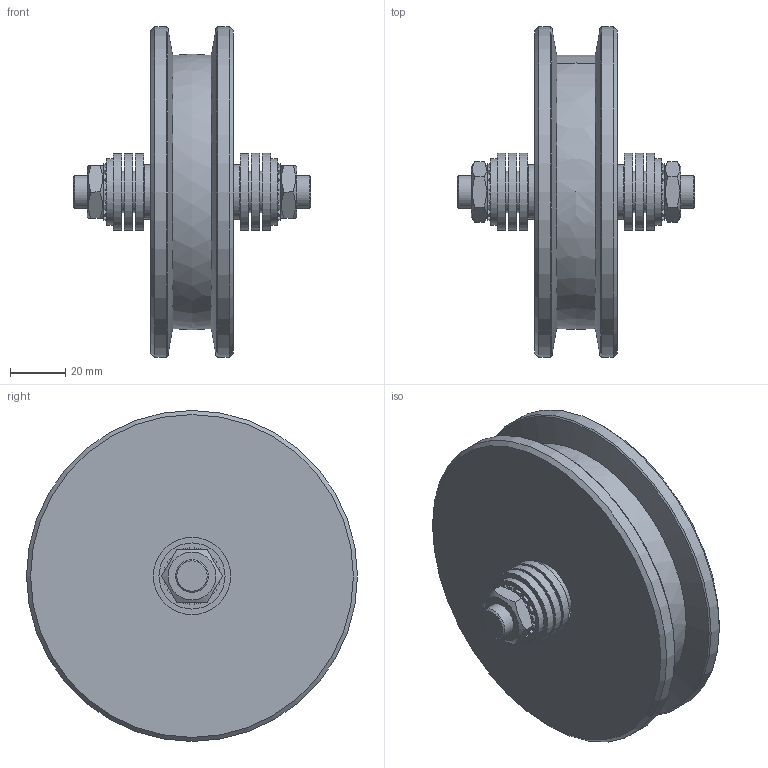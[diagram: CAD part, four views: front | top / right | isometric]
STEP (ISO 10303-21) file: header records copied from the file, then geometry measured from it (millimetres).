
FILE_DESCRIPTION(/* description */ ('Rolle Ø120'),/* implementation_level */ '2;1');
FILE_NAME(/* name */ 'Q:\sge-ma\Produktmanagement-STB\STB\Workspace\stp\010337672.stp',/* time_stamp */ '2016-07-21T13:48:30+02:00',/* author */ ('avschreier'),/* organization */ (''),/* preprocessor_version */ 'ST-DEVELOPER v16.1',/* originating_system */ 'Autodesk Inventor 2016',/* authorisation */ '');
FILE_SCHEMA (('CONFIG_CONTROL_DESIGN'));
Length unit declared in the file: millimetre
Products named in the file (10): 337000182; 337000184; 337000183; DIN_472-37x1,5_en; DIN_625-6202_en; DIN_EN_ISO_4035-M12_en; DIN_6798-A_13_en; DIN_1440-16_en; DIN_EN_ISO_7090-13_en; 010337672
Assembly tree (18 placements, depth 2):
  010337672
    337000182
    337000184  x2
    337000183
    DIN_472-37x1,5_en
    DIN_625-6202_en
    DIN_EN_ISO_4035-M12_en  x2
    DIN_6798-A_13_en  x2
    DIN_1440-16_en  x6
    DIN_EN_ISO_7090-13_en  x2
Bounding box: 86 x 120 x 120 mm (x, y, z)
Volume: 291056.1 mm3; surface area: 65878.8 mm2
Topology: 18 solids, 18 shells, 350 faces, 935 edges, 614 vertices
Faces by surface type: cylinder 173, plane 123, cone 26, torus 20, sphere 8
Full cylindrical faces by diameter (mm): 2.5 x2, 10.106 x2, 12 x2, 13 x4, 15 x2, 15.5 x2, 16 x6, 20 x2, 21.4 x2, 24 x2, 25.5 x1, 28 x6, 28.6 x2, 35 x2, 37 x1, 39 x1, 120 x2
Entity records: 7075 total; most frequent: CARTESIAN_POINT 1830, DIRECTION 1118, ORIENTED_EDGE 968, EDGE_CURVE 484, AXIS2_PLACEMENT_3D 468, VERTEX_POINT 346, EDGE_LOOP 288, CIRCLE 234
